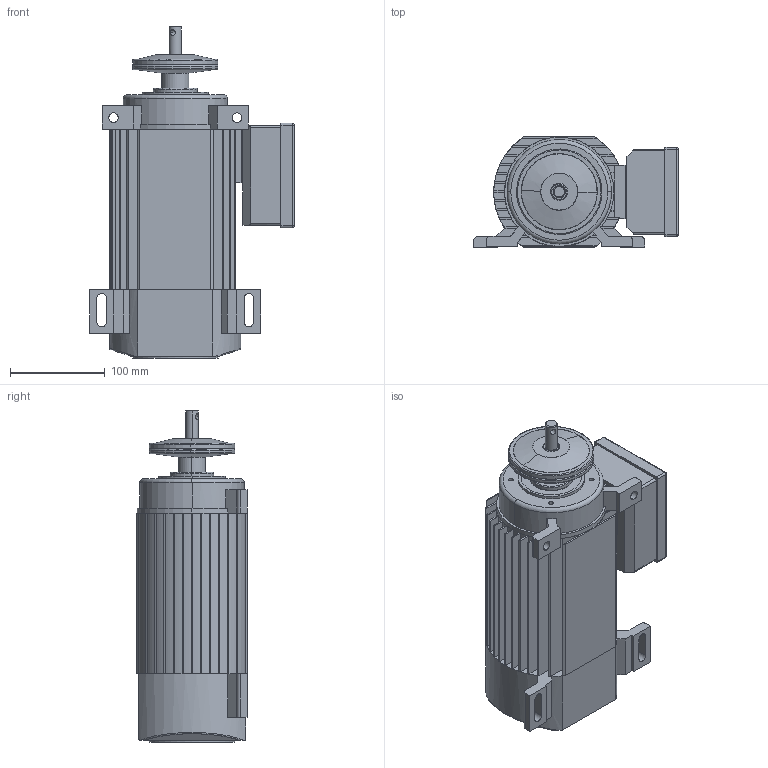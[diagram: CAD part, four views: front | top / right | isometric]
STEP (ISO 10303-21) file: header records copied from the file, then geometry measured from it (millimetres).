
FILE_DESCRIPTION (( 'STEP AP214' ), '1' );
FILE_NAME ('KSE_58B-C2.STEP', '2016-02-19T10:36:52', ( '' ), ( '' ), 'SwSTEP 2.0', 'SolidWorks 2012', '' );
FILE_SCHEMA (( 'AUTOMOTIVE_DESIGN' ));
Length unit declared in the file: millimetre
Products named in the file (6): Klemmenkasten Typ KSE; Klemmenscheibe_D90; A_Lagerschild_58A2; B_Lagerschild_58A2; KSD_58C2_Stator; KSE_58B-C2
Assembly tree (5 placements, depth 2):
  KSE_58B-C2
    KSD_58C2_Stator
    B_Lagerschild_58A2
    A_Lagerschild_58A2
    Klemmenkasten Typ KSE
    Klemmenscheibe_D90
Bounding box: 215.25 x 116 x 349.5 mm (x, y, z)
Volume: 2280001 mm3; surface area: 435946.5 mm2
Topology: 6 solids, 6 shells, 307 faces, 799 edges, 509 vertices
Faces by surface type: plane 136, cylinder 129, cone 18, torus 16, bspline 4, sphere 4
Entity records: 10024 total; most frequent: CARTESIAN_POINT 2025, DIRECTION 1684, ORIENTED_EDGE 1574, EDGE_CURVE 787, AXIS2_PLACEMENT_3D 612, VERTEX_POINT 509, LINE 460, VECTOR 460
